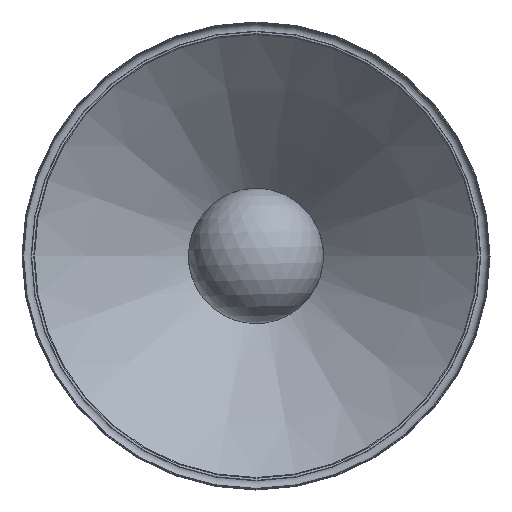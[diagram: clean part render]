
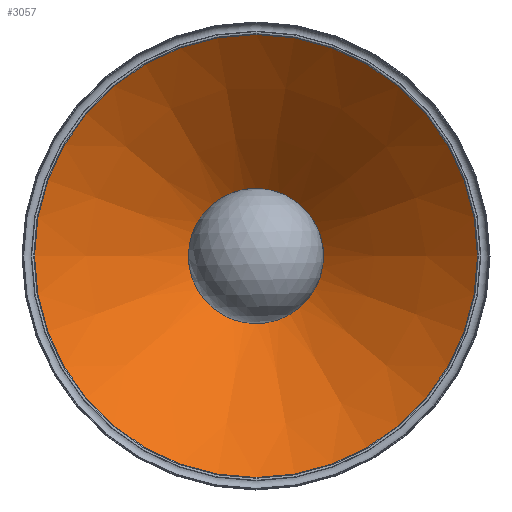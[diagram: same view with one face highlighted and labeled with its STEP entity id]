
A CAD part, front view. The second image highlights one B-rep face of the part: STEP entity #3057.
In plain terms, the highlighted conical face has half-angle 48.608 degrees and reference radius 128.04 mm.
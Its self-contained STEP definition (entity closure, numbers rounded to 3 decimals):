
#1715=CONICAL_SURFACE('',#3454,128.04,0.848);
#1815=CIRCLE('',#3455,59.622);
#1816=CIRCLE('',#3456,196.74);
#1817=CIRCLE('',#3457,196.74);
#1818=CIRCLE('',#3458,196.74);
#1941=FACE_OUTER_BOUND('',#2036,.T.);
#2036=EDGE_LOOP('',(#2646,#2647,#2648,#2649,#2650,#2651));
#2144=LINE('',#5521,#2213);
#2213=VECTOR('',#4136,128.701);
#2284=VERTEX_POINT('',#5518);
#2285=VERTEX_POINT('',#5520);
#2286=VERTEX_POINT('',#5522);
#2287=VERTEX_POINT('',#5524);
#2428=EDGE_CURVE('',#2284,#2284,#1815,.T.);
#2429=EDGE_CURVE('',#2284,#2285,#2144,.T.);
#2430=EDGE_CURVE('',#2285,#2286,#1816,.T.);
#2431=EDGE_CURVE('',#2286,#2287,#1817,.T.);
#2432=EDGE_CURVE('',#2287,#2285,#1818,.T.);
#2646=ORIENTED_EDGE('',*,*,#2428,.F.);
#2647=ORIENTED_EDGE('',*,*,#2429,.T.);
#2648=ORIENTED_EDGE('',*,*,#2430,.T.);
#2649=ORIENTED_EDGE('',*,*,#2431,.T.);
#2650=ORIENTED_EDGE('',*,*,#2432,.T.);
#2651=ORIENTED_EDGE('',*,*,#2429,.F.);
#3057=ADVANCED_FACE('',(#1941),#1715,.F.);
#3454=AXIS2_PLACEMENT_3D('',#5517,#4132,#4133);
#3455=AXIS2_PLACEMENT_3D('',#5519,#4134,#4135);
#3456=AXIS2_PLACEMENT_3D('',#5523,#4137,#4138);
#3457=AXIS2_PLACEMENT_3D('',#5525,#4139,#4140);
#3458=AXIS2_PLACEMENT_3D('',#5526,#4141,#4142);
#4132=DIRECTION('center_axis',(0.,-1.,0.));
#4133=DIRECTION('ref_axis',(1.,0.,0.));
#4134=DIRECTION('center_axis',(0.,-1.,0.));
#4135=DIRECTION('ref_axis',(1.,0.,0.));
#4136=DIRECTION('',(-0.75,-0.661,0.));
#4137=DIRECTION('center_axis',(0.,-1.,0.));
#4138=DIRECTION('ref_axis',(1.,0.,0.));
#4139=DIRECTION('center_axis',(0.,-1.,0.));
#4140=DIRECTION('ref_axis',(1.,0.,0.));
#4141=DIRECTION('center_axis',(0.,-1.,0.));
#4142=DIRECTION('ref_axis',(1.,0.,0.));
#5517=CARTESIAN_POINT('Origin',(0.,68.7,0.));
#5518=CARTESIAN_POINT('',(-59.622,129.,0.));
#5519=CARTESIAN_POINT('Origin',(0.,129.,0.));
#5520=CARTESIAN_POINT('',(-196.74,8.15,0.));
#5521=CARTESIAN_POINT('',(-128.04,68.7,0.));
#5522=CARTESIAN_POINT('',(196.74,8.15,0.));
#5523=CARTESIAN_POINT('Origin',(0.,8.15,0.));
#5524=CARTESIAN_POINT('',(0.,8.15,196.74));
#5525=CARTESIAN_POINT('Origin',(0.,8.15,0.));
#5526=CARTESIAN_POINT('Origin',(0.,8.15,0.));
